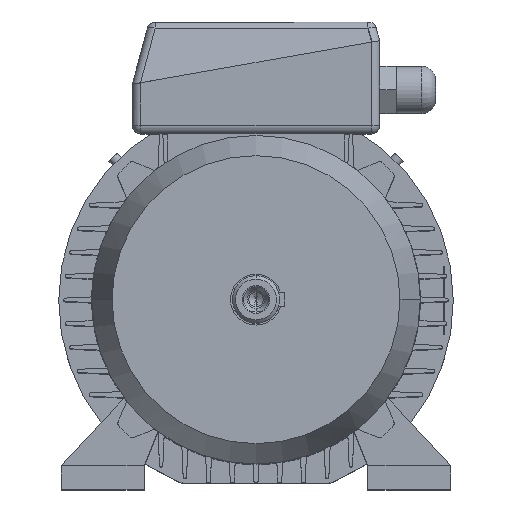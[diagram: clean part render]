
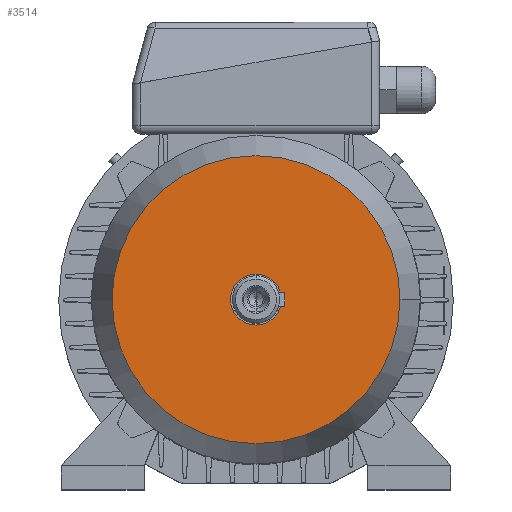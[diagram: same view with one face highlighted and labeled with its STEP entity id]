
A CAD part, top view. The second image highlights one B-rep face of the part: STEP entity #3514.
In plain terms, the highlighted planar face has unit normal (0, 0, 1).
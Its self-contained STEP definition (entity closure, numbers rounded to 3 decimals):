
#230 = ORIENTED_EDGE ( 'NONE', *, *, #5030, .F. ) ;
#3514 = ADVANCED_FACE ( 'NONE', ( #11882 ), #11883, .T. ) ;
#4489 = CARTESIAN_POINT ( 'NONE',  ( 85., 0., 43. ) ) ;
#4592 = CARTESIAN_POINT ( 'NONE',  ( -85., 0., 43. ) ) ;
#4713 = CIRCLE ( 'NONE', #4717, 85. ) ;
#4717 = AXIS2_PLACEMENT_3D ( 'NONE', #4718, #4719, #4720 ) ;
#4718 = CARTESIAN_POINT ( 'NONE',  ( 0., 0., 43. ) ) ;
#4719 = DIRECTION ( 'NONE',  ( 0., 0., -1. ) ) ;
#4720 = DIRECTION ( 'NONE',  ( -1., 0., 0. ) ) ;
#5030 = EDGE_CURVE ( 'NONE', #10362, #10517, #12618, .T. ) ;
#8197 = EDGE_LOOP ( 'NONE', ( #8699, #230 ) ) ;
#8699 = ORIENTED_EDGE ( 'NONE', *, *, #10765, .F. ) ;
#10362 = VERTEX_POINT ( 'NONE', #4489 ) ;
#10517 = VERTEX_POINT ( 'NONE', #4592 ) ;
#10765 = EDGE_CURVE ( 'NONE', #10517, #10362, #4713, .T. ) ;
#11882 = FACE_OUTER_BOUND ( 'NONE', #8197, .T. ) ;
#11883 = PLANE ( 'NONE',  #11884 ) ;
#11884 = AXIS2_PLACEMENT_3D ( 'NONE', #11885, #11886, #11887 ) ;
#11885 = CARTESIAN_POINT ( 'NONE',  ( 0., 85., 43. ) ) ;
#11886 = DIRECTION ( 'NONE',  ( 0., 0., 1. ) ) ;
#11887 = DIRECTION ( 'NONE',  ( 1., 0., 0. ) ) ;
#12618 = CIRCLE ( 'NONE', #12619, 85. ) ;
#12619 = AXIS2_PLACEMENT_3D ( 'NONE', #12620, #12621, #12622 ) ;
#12620 = CARTESIAN_POINT ( 'NONE',  ( 0., 0., 43. ) ) ;
#12621 = DIRECTION ( 'NONE',  ( 0., 0., -1. ) ) ;
#12622 = DIRECTION ( 'NONE',  ( -1., 0., 0. ) ) ;
